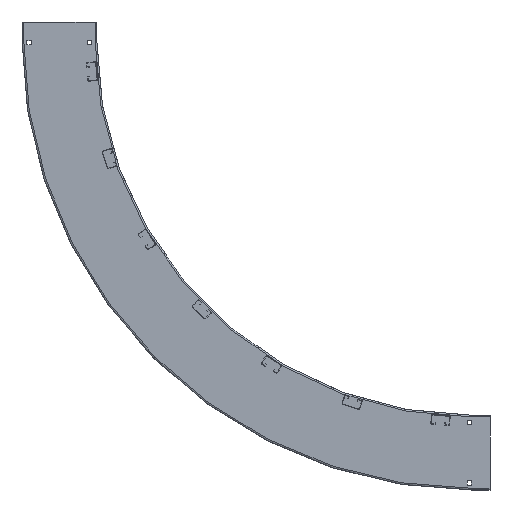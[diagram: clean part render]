
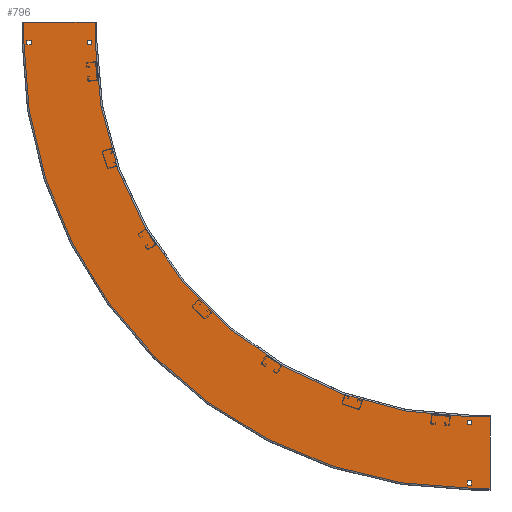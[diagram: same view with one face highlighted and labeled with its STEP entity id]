
A CAD part, left-side view. The second image highlights one B-rep face of the part: STEP entity #796.
In plain terms, the highlighted planar face has unit normal (-1, 0, 0).
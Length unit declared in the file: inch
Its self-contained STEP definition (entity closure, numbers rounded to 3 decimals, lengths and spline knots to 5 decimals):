
#1=DIRECTION('',(0.,0.,-1.));
#2=VECTOR('',#1,6.858);
#3=CARTESIAN_POINT('',(0.,-1.75,43.02));
#4=LINE('',#3,#2);
#5=DIRECTION('',(0.,1.,0.));
#6=VECTOR('',#5,6.858);
#7=CARTESIAN_POINT('',(0.,36.162,-1.75));
#8=LINE('',#7,#6);
#9=DIRECTION('',(0.,0.,-1.));
#10=VECTOR('',#9,0.41);
#11=CARTESIAN_POINT('',(0.,42.7135,0.455));
#12=LINE('',#11,#10);
#13=DIRECTION('',(0.,-1.,0.));
#14=VECTOR('',#13,0.41);
#15=CARTESIAN_POINT('',(0.,42.7135,0.045));
#16=LINE('',#15,#14);
#17=DIRECTION('',(0.,0.,1.));
#18=VECTOR('',#17,0.41);
#19=CARTESIAN_POINT('',(0.,42.3035,0.045));
#20=LINE('',#19,#18);
#21=DIRECTION('',(0.,1.,0.));
#22=VECTOR('',#21,0.41);
#23=CARTESIAN_POINT('',(0.,42.3035,0.455));
#24=LINE('',#23,#22);
#25=DIRECTION('',(0.,1.,0.));
#26=VECTOR('',#25,0.41);
#27=CARTESIAN_POINT('',(0.,36.4685,0.455));
#28=LINE('',#27,#26);
#29=DIRECTION('',(0.,0.,-1.));
#30=VECTOR('',#29,0.41);
#31=CARTESIAN_POINT('',(0.,36.8785,0.455));
#32=LINE('',#31,#30);
#33=DIRECTION('',(0.,-1.,0.));
#34=VECTOR('',#33,0.41);
#35=CARTESIAN_POINT('',(0.,36.8785,0.045));
#36=LINE('',#35,#34);
#37=DIRECTION('',(0.,0.,1.));
#38=VECTOR('',#37,0.41);
#39=CARTESIAN_POINT('',(0.,36.4685,0.045));
#40=LINE('',#39,#38);
#41=DIRECTION('',(0.,0.,-1.));
#42=VECTOR('',#41,0.41);
#43=CARTESIAN_POINT('',(0.,0.455,36.87768));
#44=LINE('',#43,#42);
#45=DIRECTION('',(0.,-1.,0.));
#46=VECTOR('',#45,0.41);
#47=CARTESIAN_POINT('',(0.,0.455,36.46768));
#48=LINE('',#47,#46);
#49=DIRECTION('',(0.,0.,1.));
#50=VECTOR('',#49,0.41);
#51=CARTESIAN_POINT('',(0.,0.045,36.46768));
#52=LINE('',#51,#50);
#53=DIRECTION('',(0.,1.,0.));
#54=VECTOR('',#53,0.41);
#55=CARTESIAN_POINT('',(0.,0.045,36.87768));
#56=LINE('',#55,#54);
#57=DIRECTION('',(0.,0.,1.));
#58=VECTOR('',#57,0.41);
#59=CARTESIAN_POINT('',(0.,0.045,42.30279));
#60=LINE('',#59,#58);
#61=DIRECTION('',(0.,1.,0.));
#62=VECTOR('',#61,0.41);
#63=CARTESIAN_POINT('',(0.,0.045,42.71279));
#64=LINE('',#63,#62);
#65=DIRECTION('',(0.,0.,-1.));
#66=VECTOR('',#65,0.41);
#67=CARTESIAN_POINT('',(0.,0.455,42.71279));
#68=LINE('',#67,#66);
#69=DIRECTION('',(0.,-1.,0.));
#70=VECTOR('',#69,0.41);
#71=CARTESIAN_POINT('',(0.,0.455,42.30279));
#72=LINE('',#71,#70);
#73=DIRECTION('',(0.,0.,1.));
#74=VECTOR('',#73,1.75);
#75=CARTESIAN_POINT('',(0.,43.02,-1.75));
#76=LINE('',#75,#74);
#114=DIRECTION('',(0.,0.,-1.));
#115=VECTOR('',#114,1.75);
#116=CARTESIAN_POINT('',(0.,36.162,0.));
#117=LINE('',#116,#115);
#123=CARTESIAN_POINT('',(0.,0.,0.));
#124=DIRECTION('',(-1.,0.,0.));
#125=DIRECTION('',(0.,0.,1.));
#126=AXIS2_PLACEMENT_3D('',#123,#124,#125);
#128=DIRECTION('',(0.,1.,0.));
#129=VECTOR('',#128,1.75);
#130=CARTESIAN_POINT('',(0.,-1.75,36.162));
#131=LINE('',#130,#129);
#169=DIRECTION('',(0.,-1.,0.));
#170=VECTOR('',#169,1.75);
#171=CARTESIAN_POINT('',(0.,0.,43.02));
#172=LINE('',#171,#170);
#178=CARTESIAN_POINT('',(0.,0.,0.));
#179=DIRECTION('',(1.,0.,0.));
#180=DIRECTION('',(0.,1.,0.));
#181=AXIS2_PLACEMENT_3D('',#178,#179,#180);
#573=CARTESIAN_POINT('',(0.,-1.75,36.162));
#575=VERTEX_POINT('',#573);
#579=CARTESIAN_POINT('',(0.,0.,36.162));
#581=VERTEX_POINT('',#579);
#585=CARTESIAN_POINT('',(0.,36.162,0.));
#587=VERTEX_POINT('',#585);
#591=CARTESIAN_POINT('',(0.,36.162,-1.75));
#593=VERTEX_POINT('',#591);
#621=CARTESIAN_POINT('',(0.,43.02,-1.75));
#622=VERTEX_POINT('',#621);
#623=CARTESIAN_POINT('',(0.,-1.75,43.02));
#624=VERTEX_POINT('',#623);
#629=CARTESIAN_POINT('',(0.,43.02,0.));
#631=VERTEX_POINT('',#629);
#635=CARTESIAN_POINT('',(0.,0.,43.02));
#637=VERTEX_POINT('',#635);
#669=CARTESIAN_POINT('',(0.,42.7135,0.455));
#670=CARTESIAN_POINT('',(0.,42.7135,0.045));
#671=VERTEX_POINT('',#669);
#672=VERTEX_POINT('',#670);
#673=CARTESIAN_POINT('',(0.,42.3035,0.045));
#674=VERTEX_POINT('',#673);
#675=CARTESIAN_POINT('',(0.,42.3035,0.455));
#676=VERTEX_POINT('',#675);
#677=CARTESIAN_POINT('',(0.,36.4685,0.455));
#678=CARTESIAN_POINT('',(0.,36.8785,0.455));
#679=VERTEX_POINT('',#677);
#680=VERTEX_POINT('',#678);
#681=CARTESIAN_POINT('',(0.,36.8785,0.045));
#682=VERTEX_POINT('',#681);
#683=CARTESIAN_POINT('',(0.,36.4685,0.045));
#684=VERTEX_POINT('',#683);
#701=CARTESIAN_POINT('',(0.,0.455,36.87768));
#702=CARTESIAN_POINT('',(0.,0.455,36.46768));
#703=VERTEX_POINT('',#701);
#704=VERTEX_POINT('',#702);
#705=CARTESIAN_POINT('',(0.,0.045,36.46768));
#706=VERTEX_POINT('',#705);
#707=CARTESIAN_POINT('',(0.,0.045,36.87768));
#708=VERTEX_POINT('',#707);
#709=CARTESIAN_POINT('',(0.,0.045,42.30279));
#710=CARTESIAN_POINT('',(0.,0.045,42.71279));
#711=VERTEX_POINT('',#709);
#712=VERTEX_POINT('',#710);
#713=CARTESIAN_POINT('',(0.,0.455,42.71279));
#714=VERTEX_POINT('',#713);
#715=CARTESIAN_POINT('',(0.,0.455,42.30279));
#716=VERTEX_POINT('',#715);
#733=CARTESIAN_POINT('',(0.,0.,0.));
#734=DIRECTION('',(1.,0.,0.));
#735=DIRECTION('',(0.,0.,-1.));
#736=AXIS2_PLACEMENT_3D('',#733,#734,#735);
#737=PLANE('',#736);
#739=ORIENTED_EDGE('',*,*,#738,.T.);
#741=ORIENTED_EDGE('',*,*,#740,.T.);
#743=ORIENTED_EDGE('',*,*,#742,.T.);
#745=ORIENTED_EDGE('',*,*,#744,.T.);
#747=ORIENTED_EDGE('',*,*,#746,.T.);
#749=ORIENTED_EDGE('',*,*,#748,.T.);
#751=ORIENTED_EDGE('',*,*,#750,.T.);
#753=ORIENTED_EDGE('',*,*,#752,.T.);
#754=EDGE_LOOP('',(#739,#741,#743,#745,#747,#749,#751,#753));
#755=FACE_OUTER_BOUND('',#754,.F.);
#757=ORIENTED_EDGE('',*,*,#756,.T.);
#759=ORIENTED_EDGE('',*,*,#758,.T.);
#761=ORIENTED_EDGE('',*,*,#760,.T.);
#763=ORIENTED_EDGE('',*,*,#762,.T.);
#764=EDGE_LOOP('',(#757,#759,#761,#763));
#765=FACE_BOUND('',#764,.F.);
#767=ORIENTED_EDGE('',*,*,#766,.T.);
#769=ORIENTED_EDGE('',*,*,#768,.T.);
#771=ORIENTED_EDGE('',*,*,#770,.T.);
#773=ORIENTED_EDGE('',*,*,#772,.T.);
#774=EDGE_LOOP('',(#767,#769,#771,#773));
#775=FACE_BOUND('',#774,.F.);
#777=ORIENTED_EDGE('',*,*,#776,.T.);
#779=ORIENTED_EDGE('',*,*,#778,.T.);
#781=ORIENTED_EDGE('',*,*,#780,.T.);
#783=ORIENTED_EDGE('',*,*,#782,.T.);
#784=EDGE_LOOP('',(#777,#779,#781,#783));
#785=FACE_BOUND('',#784,.F.);
#787=ORIENTED_EDGE('',*,*,#786,.T.);
#789=ORIENTED_EDGE('',*,*,#788,.T.);
#791=ORIENTED_EDGE('',*,*,#790,.T.);
#793=ORIENTED_EDGE('',*,*,#792,.T.);
#794=EDGE_LOOP('',(#787,#789,#791,#793));
#795=FACE_BOUND('',#794,.F.);
#796=ADVANCED_FACE('',(#755,#765,#775,#785,#795),#737,.F.);
#127=CIRCLE('',#126,36.162);
#182=CIRCLE('',#181,43.02);
#738=EDGE_CURVE('',#622,#631,#76,.T.);
#740=EDGE_CURVE('',#631,#637,#182,.T.);
#742=EDGE_CURVE('',#637,#624,#172,.T.);
#744=EDGE_CURVE('',#624,#575,#4,.T.);
#746=EDGE_CURVE('',#575,#581,#131,.T.);
#748=EDGE_CURVE('',#581,#587,#127,.T.);
#750=EDGE_CURVE('',#587,#593,#117,.T.);
#752=EDGE_CURVE('',#593,#622,#8,.T.);
#756=EDGE_CURVE('',#671,#672,#12,.T.);
#758=EDGE_CURVE('',#672,#674,#16,.T.);
#760=EDGE_CURVE('',#674,#676,#20,.T.);
#762=EDGE_CURVE('',#676,#671,#24,.T.);
#766=EDGE_CURVE('',#679,#680,#28,.T.);
#768=EDGE_CURVE('',#680,#682,#32,.T.);
#770=EDGE_CURVE('',#682,#684,#36,.T.);
#772=EDGE_CURVE('',#684,#679,#40,.T.);
#776=EDGE_CURVE('',#703,#704,#44,.T.);
#778=EDGE_CURVE('',#704,#706,#48,.T.);
#780=EDGE_CURVE('',#706,#708,#52,.T.);
#782=EDGE_CURVE('',#708,#703,#56,.T.);
#786=EDGE_CURVE('',#711,#712,#60,.T.);
#788=EDGE_CURVE('',#712,#714,#64,.T.);
#790=EDGE_CURVE('',#714,#716,#68,.T.);
#792=EDGE_CURVE('',#716,#711,#72,.T.);
